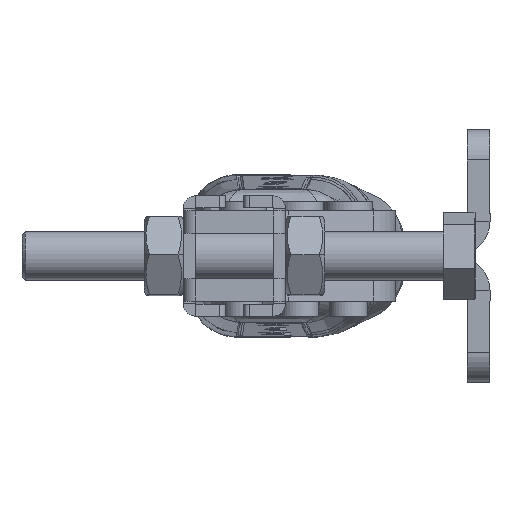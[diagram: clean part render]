
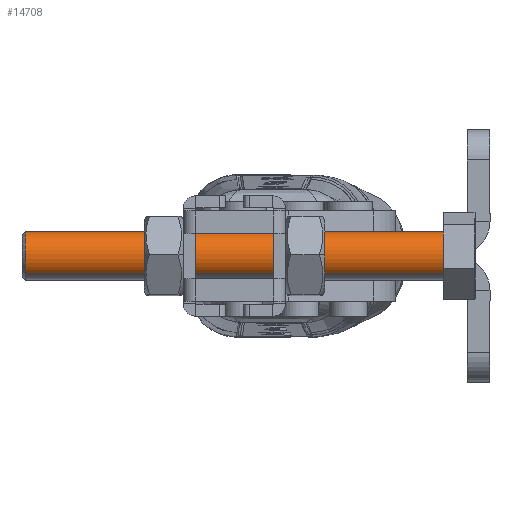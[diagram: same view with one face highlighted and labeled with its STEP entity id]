
A CAD part, left-side view. The second image highlights one B-rep face of the part: STEP entity #14708.
In plain terms, the highlighted cylindrical face has radius 4 mm (diameter 8 mm), a partial arc.
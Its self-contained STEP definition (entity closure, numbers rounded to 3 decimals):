
#62 = CARTESIAN_POINT ( 'NONE',  ( 0., -69.5, -4. ) ) ;
#1047 = ORIENTED_EDGE ( 'NONE', *, *, #4368, .T. ) ;
#1277 = ORIENTED_EDGE ( 'NONE', *, *, #3991, .T. ) ;
#2925 = CARTESIAN_POINT ( 'NONE',  ( 0., 0., -4. ) ) ;
#3859 = EDGE_CURVE ( 'NONE', #9321, #12542, #6433, .T. ) ;
#3944 = LINE ( 'NONE', #7974, #15977 ) ;
#3991 = EDGE_CURVE ( 'NONE', #15377, #18247, #3944, .T. ) ;
#4368 = EDGE_CURVE ( 'NONE', #18247, #12542, #6696, .T. ) ;
#4572 = CARTESIAN_POINT ( 'NONE',  ( 0., -69.5, 4. ) ) ;
#4675 = AXIS2_PLACEMENT_3D ( 'NONE', #17462, #11282, #8137 ) ;
#5304 = EDGE_CURVE ( 'NONE', #9321, #15377, #14735, .T. ) ;
#6279 = CARTESIAN_POINT ( 'NONE',  ( 0., -69.5, 0. ) ) ;
#6408 = AXIS2_PLACEMENT_3D ( 'NONE', #6279, #17254, #7876 ) ;
#6433 = LINE ( 'NONE', #20163, #14261 ) ;
#6696 = CIRCLE ( 'NONE', #9825, 4. ) ;
#7291 = EDGE_LOOP ( 'NONE', ( #20171, #16166, #1277, #1047 ) ) ;
#7611 = DIRECTION ( 'NONE',  ( 0., -1., 0. ) ) ;
#7876 = DIRECTION ( 'NONE',  ( 0., 0., -1. ) ) ;
#7974 = CARTESIAN_POINT ( 'NONE',  ( 0., -70., 4. ) ) ;
#8137 = DIRECTION ( 'NONE',  ( 0., 0., 1. ) ) ;
#9321 = VERTEX_POINT ( 'NONE', #62 ) ;
#9825 = AXIS2_PLACEMENT_3D ( 'NONE', #17001, #7611, #18563 ) ;
#9853 = FACE_OUTER_BOUND ( 'NONE', #7291, .T. ) ;
#11282 = DIRECTION ( 'NONE',  ( 0., 1., 0. ) ) ;
#12368 = DIRECTION ( 'NONE',  ( 0., 1., 0. ) ) ;
#12542 = VERTEX_POINT ( 'NONE', #2925 ) ;
#13518 = CYLINDRICAL_SURFACE ( 'NONE', #4675, 4. ) ;
#14253 = DIRECTION ( 'NONE',  ( 0., 1., 0. ) ) ;
#14261 = VECTOR ( 'NONE', #12368, 1000. ) ;
#14708 = ADVANCED_FACE ( 'NONE', ( #9853 ), #13518, .T. ) ;
#14735 = CIRCLE ( 'NONE', #6408, 4. ) ;
#15377 = VERTEX_POINT ( 'NONE', #4572 ) ;
#15969 = CARTESIAN_POINT ( 'NONE',  ( 0., 0., 4. ) ) ;
#15977 = VECTOR ( 'NONE', #14253, 1000. ) ;
#16166 = ORIENTED_EDGE ( 'NONE', *, *, #5304, .T. ) ;
#17001 = CARTESIAN_POINT ( 'NONE',  ( 0., 0., 0. ) ) ;
#17254 = DIRECTION ( 'NONE',  ( 0., 1., 0. ) ) ;
#17462 = CARTESIAN_POINT ( 'NONE',  ( 0., -70., 0. ) ) ;
#18247 = VERTEX_POINT ( 'NONE', #15969 ) ;
#18563 = DIRECTION ( 'NONE',  ( 0., 0., 1. ) ) ;
#20163 = CARTESIAN_POINT ( 'NONE',  ( 0., -70., -4. ) ) ;
#20171 = ORIENTED_EDGE ( 'NONE', *, *, #3859, .F. ) ;
